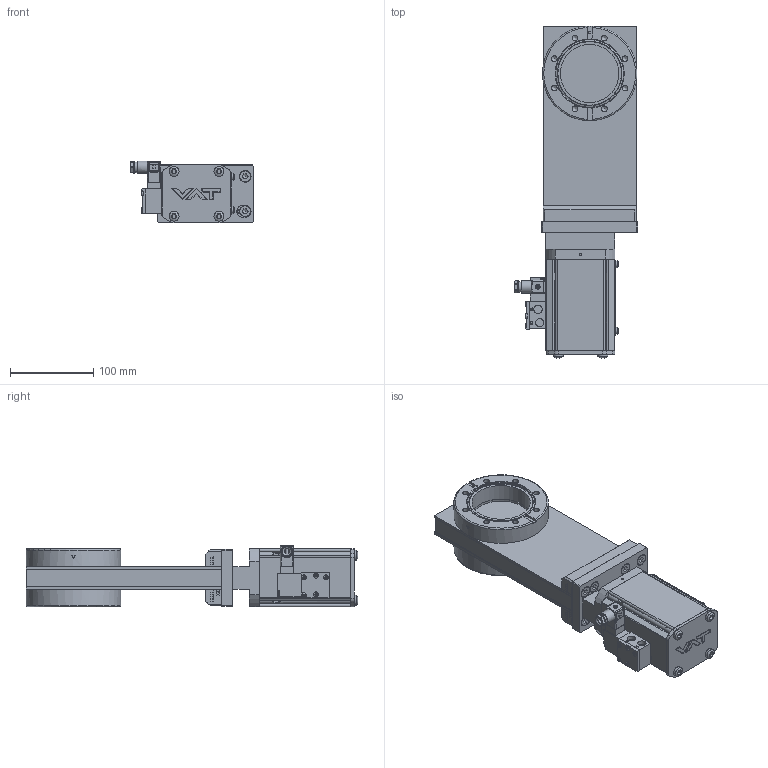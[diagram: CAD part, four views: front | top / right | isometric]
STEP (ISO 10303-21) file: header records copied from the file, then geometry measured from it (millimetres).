
FILE_DESCRIPTION(/* description */ (''),/* implementation_level */ '2;1');
FILE_NAME(/* name */ '1180242304_203.stp',/* time_stamp */ '2016-01-11T09:13:20+01:00',/* author */ (''),/* organization */ (''),/* preprocessor_version */ 'ST-DEVELOPER v15',/* originating_system */ 'SIEMENS PLM Software NX 9.0',/* authorisation */ '');
FILE_SCHEMA (('AP203_CONFIGURATION_CONTROLLED_3D_DESIGN_OF_MECHANICAL_PARTS_AND_ASSEMBLIES_MIM_LF { 1 0 10303 403 2 1 2}'));
Length unit declared in the file: millimetre
Products named in the file (36): 467882; 437235; 441451_24150ID; 21436-01.1_24163ID; 21437-01.1_24162ID; 21438-01.1; 441451_24159ID; 21437-01.1_24158ID; 21436-01.1_24152ID; N-7557-016_1.1; N-7557-018.1; N-7557-016_2.1; N-6024-524.1; N-5018-005.1; N-6024-538.1; 68057-01.1; N-6024-571.1; 85948-01.1; 94221-01.1; 73002-01.1; 69127.1; 72872-01.1; 25832.1_24154ID; 25832.1; n-6099-454.1; 63215-01.1; 218198.1; 790428; N-7557-016_3.1_MODELNX-ARRAGMNTArrangement 1; 94800-r1.7_NX-ARRAGMNTKONFIG1; 78103-r1.1; 94234-r1.2; 82467-r1.1; 22974-r1.2_MODEL; 25833.2_MODEL; 709933
Assembly tree (58 placements, depth 4):
  709933
    25833.2_MODEL
      n-6099-454.1  x2
      25832.1
      25832.1_24154ID
      22974-r1.2_MODEL
        21436-01.1_24152ID
        21437-01.1_24158ID
        441451_24159ID
        21438-01.1
        21437-01.1_24162ID
        21436-01.1_24163ID
        441451_24150ID
    790428
    82467-r1.1
      72872-01.1
      69127.1
    218198.1  x8
    63215-01.1
    94234-r1.2
      73002-01.1  x4
      94221-01.1
      85948-01.1
      N-6024-571.1  x4
    78103-r1.1
      68057-01.1
      N-6024-538.1  x4
    94800-r1.7_NX-ARRAGMNTKONFIG1
      N-5018-005.1  x2
      N-6024-524.1  x6
      N-7557-016_2.1
      N-7557-018.1
      N-7557-016_1.1
      N-7557-016_3.1_MODELNX-ARRAGMNTArrangement 1
        437235
        467882
Bounding box: 148.05 x 399.02 x 74.35 mm (x, y, z)
Volume: 1195629.4 mm3; surface area: 422087.6 mm2
Topology: 127 solids, 127 shells, 1705 faces, 4023 edges, 2686 vertices
Faces by surface type: plane 1255, cylinder 296, cone 99, torus 24, sphere 21, extrusion 8, bspline 2
Full cylindrical faces by diameter (mm): 0.7 x1, 2.125 x1, 2.5 x2, 2.65 x1, 2.8 x2, 3 x12, 3.2 x2, 3.3 x4, 3.4 x4, 3.5 x3, 4 x12, 4.2 x3, 4.22 x1, 4.3 x4, 4.35 x2, 4.4 x4, 4.625 x4, 5 x8, 5.5 x1, 5.9 x1, 6 x20, 6.6 x4, 6.66 x8, 6.7 x8, 6.8 x12, 6.909 x16, 7 x1, 7.05 x1, 7.982 x4, 8 x20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
Entity records: 47284 total; most frequent: CARTESIAN_POINT 8748, DIRECTION 5572, ORIENTED_EDGE 5498, EDGE_CURVE 2749, VERTEX_POINT 2005, AXIS2_PLACEMENT_3D 1929, VECTOR 1714, LINE 1706
